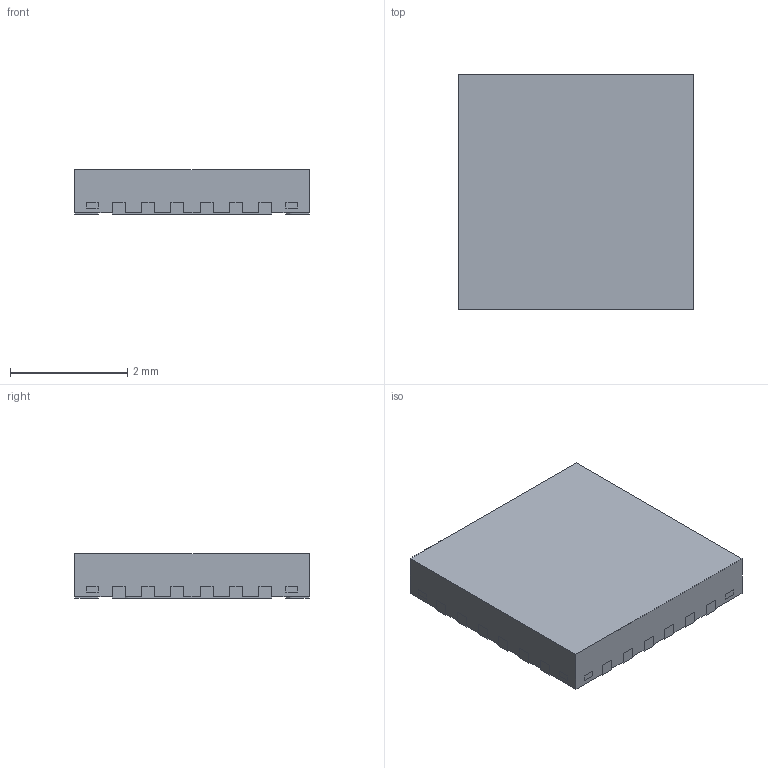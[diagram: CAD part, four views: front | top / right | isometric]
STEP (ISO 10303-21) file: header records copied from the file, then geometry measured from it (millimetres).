
FILE_DESCRIPTION (( 'STEP AP214' ), '1' );
FILE_NAME ('ES24-Non Wettable.STEP', '2018-09-27T18:39:01', ( '' ), ( '' ), 'SwSTEP 2.0', 'SolidWorks 2017', '' );
FILE_SCHEMA (( 'AUTOMOTIVE_DESIGN' ));
Length unit declared in the file: millimetre
Products named in the file (1): ES24-Non Wettable
Bounding box: 4 x 4 x 0.75 mm (x, y, z)
Volume: 11.8 mm3; surface area: 44.5 mm2
Topology: 1 solids, 1 shells, 191 faces, 572 edges, 392 vertices
Faces by surface type: plane 147, cylinder 44
Entity records: 6530 total; most frequent: CARTESIAN_POINT 1156, ORIENTED_EDGE 1144, DIRECTION 1044, EDGE_CURVE 572, LINE 484, VECTOR 484, VERTEX_POINT 392, AXIS2_PLACEMENT_3D 280
